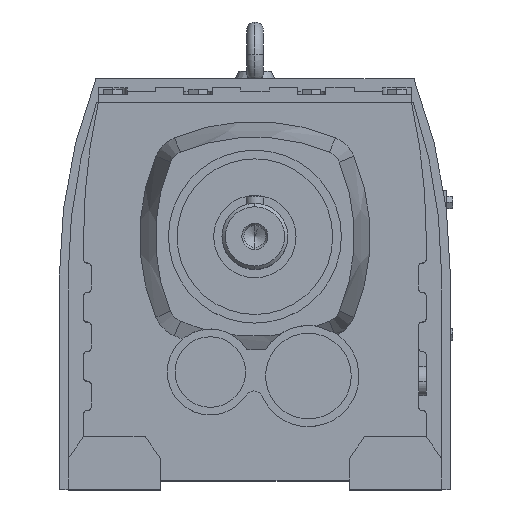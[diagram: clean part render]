
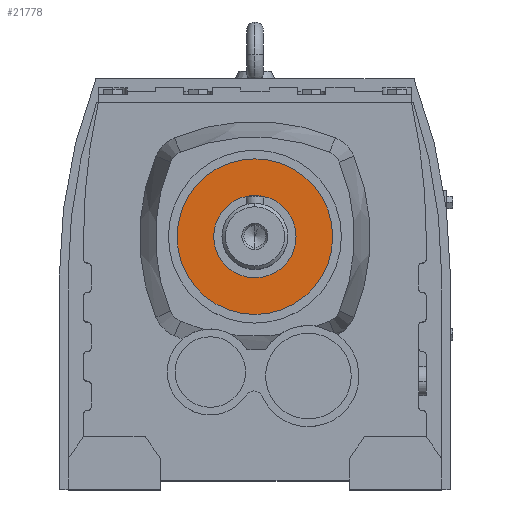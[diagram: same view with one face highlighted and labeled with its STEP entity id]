
A CAD part, top view. The second image highlights one B-rep face of the part: STEP entity #21778.
In plain terms, the highlighted planar face has unit normal (0, 0, 1).
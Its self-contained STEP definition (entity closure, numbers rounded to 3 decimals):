
#17925 = CYLINDRICAL_SURFACE('',#17926,35.438);
#17926 = AXIS2_PLACEMENT_3D('',#17927,#17928,#17929);
#17927 = CARTESIAN_POINT('',(0.,14.,235.));
#17928 = DIRECTION('',(0.,0.,1.));
#17929 = DIRECTION('',(0.,-1.,0.));
#17955 = CYLINDRICAL_SURFACE('',#17956,35.438);
#17956 = AXIS2_PLACEMENT_3D('',#17957,#17958,#17959);
#17957 = CARTESIAN_POINT('',(0.,14.,235.));
#17958 = DIRECTION('',(0.,0.,1.));
#17959 = DIRECTION('',(0.,-1.,0.));
#21468 = VERTEX_POINT('',#21469);
#21469 = CARTESIAN_POINT('',(0.,49.438,169.));
#21490 = VERTEX_POINT('',#21491);
#21491 = CARTESIAN_POINT('',(0.,-21.438,169.));
#21510 = EDGE_CURVE('',#21468,#21490,#21511,.T.);
#21511 = SURFACE_CURVE('',#21512,(#21517,#21523),.PCURVE_S1.);
#21512 = CIRCLE('',#21513,35.438);
#21513 = AXIS2_PLACEMENT_3D('',#21514,#21515,#21516);
#21514 = CARTESIAN_POINT('',(0.,14.,169.));
#21515 = DIRECTION('',(0.,0.,-1.));
#21516 = DIRECTION('',(-1.,0.,0.));
#21517 = PCURVE('',#17925,#21518);
#21518 = DEFINITIONAL_REPRESENTATION('',(#21519),#21522);
#21519 = B_SPLINE_CURVE_WITH_KNOTS('',1,(#21520,#21521),.UNSPECIFIED.,
  .F.,.F.,(2,2),(1.571,4.712),
  .PIECEWISE_BEZIER_KNOTS.);
#21520 = CARTESIAN_POINT('',(3.142,-66.));
#21521 = CARTESIAN_POINT('',(0.,-66.));
#21522 = ( GEOMETRIC_REPRESENTATION_CONTEXT(2) 
PARAMETRIC_REPRESENTATION_CONTEXT() REPRESENTATION_CONTEXT('2D SPACE',''
  ) );
#21523 = PCURVE('',#21524,#21529);
#21524 = PLANE('',#21525);
#21525 = AXIS2_PLACEMENT_3D('',#21526,#21527,#21528);
#21526 = CARTESIAN_POINT('',(-15.287,8.287,169.));
#21527 = DIRECTION('',(0.,0.,-1.));
#21528 = DIRECTION('',(-1.,0.,0.));
#21529 = DEFINITIONAL_REPRESENTATION('',(#21530),#21534);
#21530 = CIRCLE('',#21531,35.438);
#21531 = AXIS2_PLACEMENT_2D('',#21532,#21533);
#21532 = CARTESIAN_POINT('',(-15.287,5.713));
#21533 = DIRECTION('',(1.,0.));
#21534 = ( GEOMETRIC_REPRESENTATION_CONTEXT(2) 
PARAMETRIC_REPRESENTATION_CONTEXT() REPRESENTATION_CONTEXT('2D SPACE',''
  ) );
#21539 = EDGE_CURVE('',#21490,#21468,#21540,.T.);
#21540 = SURFACE_CURVE('',#21541,(#21546,#21552),.PCURVE_S1.);
#21541 = CIRCLE('',#21542,35.438);
#21542 = AXIS2_PLACEMENT_3D('',#21543,#21544,#21545);
#21543 = CARTESIAN_POINT('',(0.,14.,169.));
#21544 = DIRECTION('',(0.,0.,-1.));
#21545 = DIRECTION('',(-1.,0.,0.));
#21546 = PCURVE('',#17955,#21547);
#21547 = DEFINITIONAL_REPRESENTATION('',(#21548),#21551);
#21548 = B_SPLINE_CURVE_WITH_KNOTS('',1,(#21549,#21550),.UNSPECIFIED.,
  .F.,.F.,(2,2),(4.712,7.854),
  .PIECEWISE_BEZIER_KNOTS.);
#21549 = CARTESIAN_POINT('',(6.283,-66.));
#21550 = CARTESIAN_POINT('',(3.142,-66.));
#21551 = ( GEOMETRIC_REPRESENTATION_CONTEXT(2) 
PARAMETRIC_REPRESENTATION_CONTEXT() REPRESENTATION_CONTEXT('2D SPACE',''
  ) );
#21552 = PCURVE('',#21524,#21553);
#21553 = DEFINITIONAL_REPRESENTATION('',(#21554),#21558);
#21554 = CIRCLE('',#21555,35.438);
#21555 = AXIS2_PLACEMENT_2D('',#21556,#21557);
#21556 = CARTESIAN_POINT('',(-15.287,5.713));
#21557 = DIRECTION('',(1.,0.));
#21558 = ( GEOMETRIC_REPRESENTATION_CONTEXT(2) 
PARAMETRIC_REPRESENTATION_CONTEXT() REPRESENTATION_CONTEXT('2D SPACE',''
  ) );
#21778 = ADVANCED_FACE('',(#21779,#21783),#21524,.F.);
#21779 = FACE_BOUND('',#21780,.T.);
#21780 = EDGE_LOOP('',(#21781,#21782));
#21781 = ORIENTED_EDGE('',*,*,#21539,.F.);
#21782 = ORIENTED_EDGE('',*,*,#21510,.F.);
#21783 = FACE_BOUND('',#21784,.T.);
#21784 = EDGE_LOOP('',(#21785,#21819));
#21785 = ORIENTED_EDGE('',*,*,#21786,.F.);
#21786 = EDGE_CURVE('',#21787,#21789,#21791,.T.);
#21787 = VERTEX_POINT('',#21788);
#21788 = CARTESIAN_POINT('',(0.,-4.75,169.));
#21789 = VERTEX_POINT('',#21790);
#21790 = CARTESIAN_POINT('',(0.,32.75,169.));
#21791 = SURFACE_CURVE('',#21792,(#21797,#21808),.PCURVE_S1.);
#21792 = CIRCLE('',#21793,18.75);
#21793 = AXIS2_PLACEMENT_3D('',#21794,#21795,#21796);
#21794 = CARTESIAN_POINT('',(0.,14.,169.));
#21795 = DIRECTION('',(0.,0.,1.));
#21796 = DIRECTION('',(-1.,0.,0.));
#21797 = PCURVE('',#21524,#21798);
#21798 = DEFINITIONAL_REPRESENTATION('',(#21799),#21807);
#21799 = ( BOUNDED_CURVE() B_SPLINE_CURVE(2,(#21800,#21801,#21802,#21803
    ,#21804,#21805,#21806),.UNSPECIFIED.,.F.,.F.) 
B_SPLINE_CURVE_WITH_KNOTS((1,2,2,2,2,1),(-2.094,0.,
    2.094,4.189,6.283,8.378),
.UNSPECIFIED.) CURVE() GEOMETRIC_REPRESENTATION_ITEM() 
RATIONAL_B_SPLINE_CURVE((1.,0.5,1.,0.5,1.,0.5,1.)) REPRESENTATION_ITEM(
  '') );
#21800 = CARTESIAN_POINT('',(3.463,5.713));
#21801 = CARTESIAN_POINT('',(3.463,-26.762));
#21802 = CARTESIAN_POINT('',(-24.662,-10.525));
#21803 = CARTESIAN_POINT('',(-52.787,5.713));
#21804 = CARTESIAN_POINT('',(-24.662,21.951));
#21805 = CARTESIAN_POINT('',(3.463,38.189));
#21806 = CARTESIAN_POINT('',(3.463,5.713));
#21807 = ( GEOMETRIC_REPRESENTATION_CONTEXT(2) 
PARAMETRIC_REPRESENTATION_CONTEXT() REPRESENTATION_CONTEXT('2D SPACE',''
  ) );
#21808 = PCURVE('',#21809,#21814);
#21809 = CYLINDRICAL_SURFACE('',#21810,18.75);
#21810 = AXIS2_PLACEMENT_3D('',#21811,#21812,#21813);
#21811 = CARTESIAN_POINT('',(0.,14.,235.));
#21812 = DIRECTION('',(0.,0.,1.));
#21813 = DIRECTION('',(0.,-1.,0.));
#21814 = DEFINITIONAL_REPRESENTATION('',(#21815),#21818);
#21815 = B_SPLINE_CURVE_WITH_KNOTS('',1,(#21816,#21817),.UNSPECIFIED.,
  .F.,.F.,(2,2),(1.571,4.712),
  .PIECEWISE_BEZIER_KNOTS.);
#21816 = CARTESIAN_POINT('',(0.,-66.));
#21817 = CARTESIAN_POINT('',(3.142,-66.));
#21818 = ( GEOMETRIC_REPRESENTATION_CONTEXT(2) 
PARAMETRIC_REPRESENTATION_CONTEXT() REPRESENTATION_CONTEXT('2D SPACE',''
  ) );
#21819 = ORIENTED_EDGE('',*,*,#21820,.F.);
#21820 = EDGE_CURVE('',#21789,#21787,#21821,.T.);
#21821 = SURFACE_CURVE('',#21822,(#21827,#21838),.PCURVE_S1.);
#21822 = CIRCLE('',#21823,18.75);
#21823 = AXIS2_PLACEMENT_3D('',#21824,#21825,#21826);
#21824 = CARTESIAN_POINT('',(0.,14.,169.));
#21825 = DIRECTION('',(0.,0.,1.));
#21826 = DIRECTION('',(-1.,0.,0.));
#21827 = PCURVE('',#21524,#21828);
#21828 = DEFINITIONAL_REPRESENTATION('',(#21829),#21837);
#21829 = ( BOUNDED_CURVE() B_SPLINE_CURVE(2,(#21830,#21831,#21832,#21833
    ,#21834,#21835,#21836),.UNSPECIFIED.,.F.,.F.) 
B_SPLINE_CURVE_WITH_KNOTS((1,2,2,2,2,1),(-2.094,0.,
    2.094,4.189,6.283,8.378),
.UNSPECIFIED.) CURVE() GEOMETRIC_REPRESENTATION_ITEM() 
RATIONAL_B_SPLINE_CURVE((1.,0.5,1.,0.5,1.,0.5,1.)) REPRESENTATION_ITEM(
  '') );
#21830 = CARTESIAN_POINT('',(3.463,5.713));
#21831 = CARTESIAN_POINT('',(3.463,-26.762));
#21832 = CARTESIAN_POINT('',(-24.662,-10.525));
#21833 = CARTESIAN_POINT('',(-52.787,5.713));
#21834 = CARTESIAN_POINT('',(-24.662,21.951));
#21835 = CARTESIAN_POINT('',(3.463,38.189));
#21836 = CARTESIAN_POINT('',(3.463,5.713));
#21837 = ( GEOMETRIC_REPRESENTATION_CONTEXT(2) 
PARAMETRIC_REPRESENTATION_CONTEXT() REPRESENTATION_CONTEXT('2D SPACE',''
  ) );
#21838 = PCURVE('',#21839,#21844);
#21839 = CYLINDRICAL_SURFACE('',#21840,18.75);
#21840 = AXIS2_PLACEMENT_3D('',#21841,#21842,#21843);
#21841 = CARTESIAN_POINT('',(0.,14.,235.));
#21842 = DIRECTION('',(0.,0.,1.));
#21843 = DIRECTION('',(0.,-1.,0.));
#21844 = DEFINITIONAL_REPRESENTATION('',(#21845),#21848);
#21845 = B_SPLINE_CURVE_WITH_KNOTS('',1,(#21846,#21847),.UNSPECIFIED.,
  .F.,.F.,(2,2),(4.712,7.854),
  .PIECEWISE_BEZIER_KNOTS.);
#21846 = CARTESIAN_POINT('',(3.142,-66.));
#21847 = CARTESIAN_POINT('',(6.283,-66.));
#21848 = ( GEOMETRIC_REPRESENTATION_CONTEXT(2) 
PARAMETRIC_REPRESENTATION_CONTEXT() REPRESENTATION_CONTEXT('2D SPACE',''
  ) );
